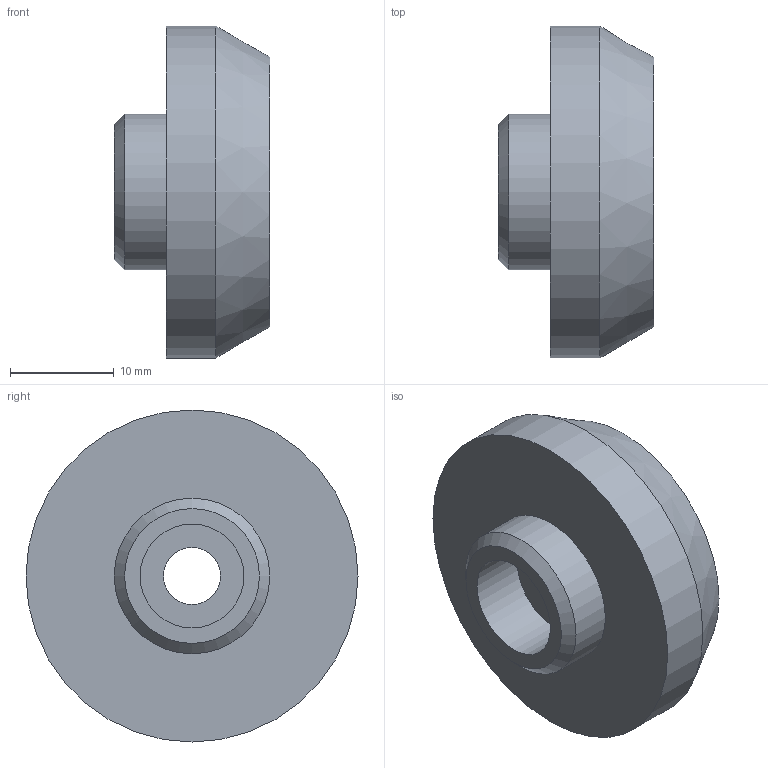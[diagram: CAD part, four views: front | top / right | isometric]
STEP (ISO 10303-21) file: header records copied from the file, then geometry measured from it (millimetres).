
FILE_DESCRIPTION(/* description */ (''),/* implementation_level */ '2;1');
FILE_NAME(/* name */ '',/* time_stamp */ '2024-09-10T16:29:46+09:00',/* author */ ('jhkim'),/* organization */ (''),/* preprocessor_version */ 'ST-DEVELOPER v20',/* originating_system */ 'Autodesk Inventor 2025',/* authorisation */ '');
FILE_SCHEMA (('AUTOMOTIVE_DESIGN { 1 0 10303 214 3 1 1 }'));
Length unit declared in the file: millimetre
Products named in the file (1): 어뎁터
Bounding box: 15 x 32 x 32 mm (x, y, z)
Volume: 6026.8 mm3; surface area: 3053.1 mm2
Topology: 1 solids, 1 shells, 13 faces, 21 edges, 13 vertices
Faces by surface type: plane 5, cylinder 5, cone 3
Full cylindrical faces by diameter (mm): 5.5 x1, 10 x1, 15 x1, 20 x1, 32 x1
Entity records: 351 total; most frequent: DIRECTION 62, CARTESIAN_POINT 48, ORIENTED_EDGE 42, AXIS2_PLACEMENT_3D 27, EDGE_CURVE 21, EDGE_LOOP 18, FACE_OUTER_BOUND 13, CIRCLE 13
